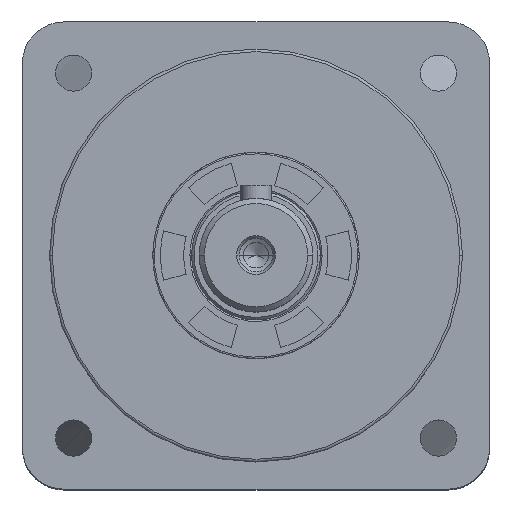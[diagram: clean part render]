
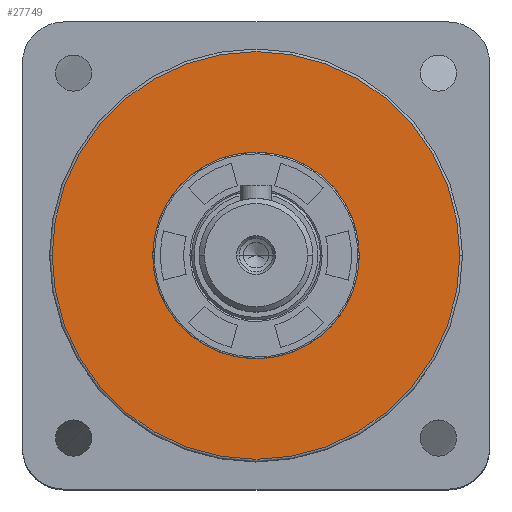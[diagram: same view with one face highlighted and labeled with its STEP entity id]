
A CAD part, top view. The second image highlights one B-rep face of the part: STEP entity #27749.
In plain terms, the highlighted planar face has unit normal (0, 0, 1).
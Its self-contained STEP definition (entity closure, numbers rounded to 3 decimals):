
#692 = FACE_BOUND ( 'NONE', #24328, .T. ) ;
#1486 = DIRECTION ( 'NONE',  ( 0., 0., 1. ) ) ;
#1579 = EDGE_CURVE ( 'NONE', #9459, #7017, #11687, .T. ) ;
#1735 = CARTESIAN_POINT ( 'NONE',  ( 0., 0., 26.1 ) ) ;
#4092 = DIRECTION ( 'NONE',  ( 1., 0., 0. ) ) ;
#4202 = DIRECTION ( 'NONE',  ( 0., 0., 1. ) ) ;
#4458 = DIRECTION ( 'NONE',  ( 0., 0., 1. ) ) ;
#4981 = DIRECTION ( 'NONE',  ( 1., 0., 0. ) ) ;
#6142 = CIRCLE ( 'NONE', #20753, 39.5 ) ;
#6157 = FACE_OUTER_BOUND ( 'NONE', #6285, .T. ) ;
#6285 = EDGE_LOOP ( 'NONE', ( #9806, #31247 ) ) ;
#6414 = EDGE_CURVE ( 'NONE', #24288, #21546, #15839, .T. ) ;
#7017 = VERTEX_POINT ( 'NONE', #15784 ) ;
#9192 = DIRECTION ( 'NONE',  ( 1., 0., 0. ) ) ;
#9459 = VERTEX_POINT ( 'NONE', #30847 ) ;
#9744 = CARTESIAN_POINT ( 'NONE',  ( 0., 0., 26.1 ) ) ;
#9806 = ORIENTED_EDGE ( 'NONE', *, *, #6414, .T. ) ;
#11687 = CIRCLE ( 'NONE', #12807, 20. ) ;
#11890 = CARTESIAN_POINT ( 'NONE',  ( 0., 0., 26.1 ) ) ;
#12124 = ORIENTED_EDGE ( 'NONE', *, *, #1579, .F. ) ;
#12807 = AXIS2_PLACEMENT_3D ( 'NONE', #9744, #15166, #24841 ) ;
#13176 = CARTESIAN_POINT ( 'NONE',  ( -39.5, 0., 26.1 ) ) ;
#13523 = CIRCLE ( 'NONE', #14153, 20. ) ;
#14153 = AXIS2_PLACEMENT_3D ( 'NONE', #29771, #19853, #4981 ) ;
#14322 = DIRECTION ( 'NONE',  ( 1., 0., 0. ) ) ;
#15166 = DIRECTION ( 'NONE',  ( 0., 0., 1. ) ) ;
#15784 = CARTESIAN_POINT ( 'NONE',  ( -20., 0., 26.1 ) ) ;
#15839 = CIRCLE ( 'NONE', #22274, 39.5 ) ;
#19061 = CARTESIAN_POINT ( 'NONE',  ( 0., 0., 26.1 ) ) ;
#19100 = AXIS2_PLACEMENT_3D ( 'NONE', #19061, #1486, #4092 ) ;
#19853 = DIRECTION ( 'NONE',  ( 0., 0., 1. ) ) ;
#20450 = EDGE_CURVE ( 'NONE', #21546, #24288, #6142, .T. ) ;
#20753 = AXIS2_PLACEMENT_3D ( 'NONE', #1735, #4458, #14322 ) ;
#21479 = PLANE ( 'NONE',  #19100 ) ;
#21546 = VERTEX_POINT ( 'NONE', #13176 ) ;
#22274 = AXIS2_PLACEMENT_3D ( 'NONE', #11890, #4202, #9192 ) ;
#24288 = VERTEX_POINT ( 'NONE', #28218 ) ;
#24328 = EDGE_LOOP ( 'NONE', ( #12124, #26263 ) ) ;
#24841 = DIRECTION ( 'NONE',  ( 1., 0., 0. ) ) ;
#26263 = ORIENTED_EDGE ( 'NONE', *, *, #26694, .F. ) ;
#26694 = EDGE_CURVE ( 'NONE', #7017, #9459, #13523, .T. ) ;
#27749 = ADVANCED_FACE ( 'NONE', ( #6157, #692 ), #21479, .T. ) ;
#28218 = CARTESIAN_POINT ( 'NONE',  ( 39.5, 0., 26.1 ) ) ;
#29771 = CARTESIAN_POINT ( 'NONE',  ( 0., 0., 26.1 ) ) ;
#30847 = CARTESIAN_POINT ( 'NONE',  ( 20., 0., 26.1 ) ) ;
#31247 = ORIENTED_EDGE ( 'NONE', *, *, #20450, .T. ) ;
